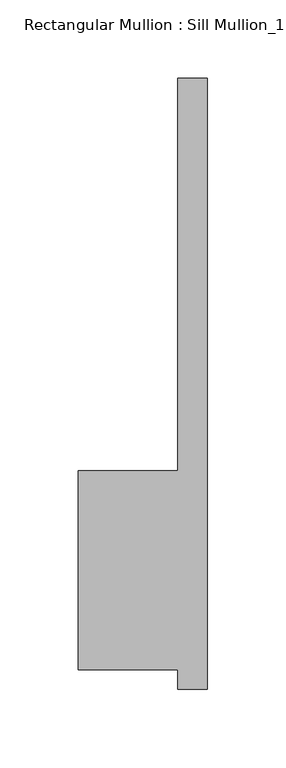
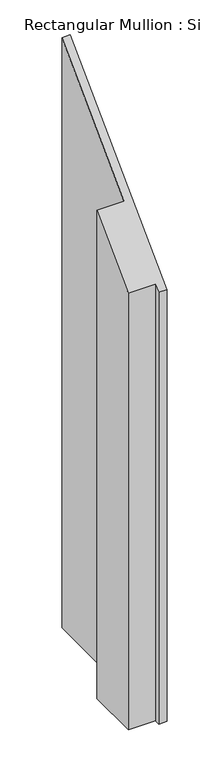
"""IFC4 building model written with IfcOpenShell, lengths in millimetres: member geometry."""

from ifc_helpers import new_model, si_unit, origin, place, context, project, spatial, faceted_brep, source, transform, mapped, element, save


def member_f84a593b(model_context):
    return source(origin(), model_context, "Body", "Brep", [
        faceted_brep([(-82.55, 50.8, -1151.255), (-19.05, 50.8, -1151.255), (-19.05, 301.625, -1151.255), (0.0, 301.625, -1151.255), (0.0, -88.9, -1151.255), (-19.05, -88.9, -1151.255), (-19.05, -76.2, -1151.255), (-82.55, -76.2, -1151.255), (-82.55, -76.2, -76.2), (-82.55, 50.8, 50.8), (-19.05, -76.2, -76.2), (-19.05, -88.9, -88.9), (0.0, -88.9, -88.9), (0.0, 301.625, 301.625), (-19.05, 301.625, 301.625), (-19.05, 50.8, 50.8)], [[[0, 1, 2, 3, 4, 5, 6, 7]], [[8, 9, 0, 7]], [[10, 8, 7, 6]], [[11, 10, 6, 5]], [[12, 11, 5, 4]], [[13, 12, 4, 3]], [[14, 13, 3, 2]], [[15, 14, 2, 1]], [[9, 15, 1, 0]], [[9, 8, 10, 11, 12, 13, 14, 15]]]),
    ])


if __name__ == "__main__":
    model = new_model("IFC4")
    model_context = context("Model", 3, world=origin())
    ifc_project = project(units=[si_unit("LENGTHUNIT", "METRE", prefix="MILLI")], contexts=[model_context])
    site = spatial("IfcSite", under=ifc_project)
    building = spatial("IfcBuilding", under=site)
    placement = place(None, origin())
    member_shape = member_f84a593b(model_context)
    element("IfcMember", 1, ObjectType="Rectangular Mullion : Sill Mullion_15\" thick wall", at=placement, inside=building, context=model_context, shape_type="MappedRepresentation", body=[
        mapped(member_shape, transform((0.0, 0.0, 0.0), x_axis=(1.0, 0.0, 0.0), y_axis=(0.0, 1.0, 0.0), z_axis=(0.0, 0.0, 1.0))),
    ])
    save(model, "model.ifc")
